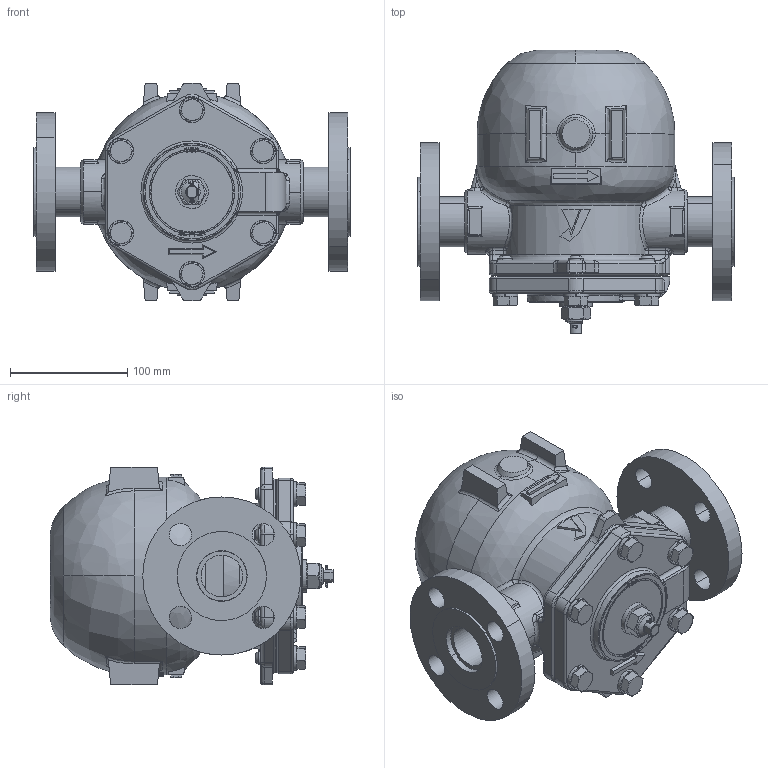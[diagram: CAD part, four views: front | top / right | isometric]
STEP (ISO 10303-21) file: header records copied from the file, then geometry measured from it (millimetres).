
FILE_DESCRIPTION( (''), '2;1');
FILE_NAME ('PC1027.12188.TSF-11SF JIS20KRF 32A_2396.stp','2025-07-31T10:52:02',(''),(''),'spGate 20.6.3 (****-****-****-****)','','');
FILE_SCHEMA (('AUTOMOTIVE_DESIGN'));
Length unit declared in the file: millimetre
Products named in the file (13): Assembly; SOP 20K 32A; CP_SUS_Q_Q''_SUS304TP 32AxSch40x260_5126; _{__32A ____; 3D_@TSF-10_@_____s__; 3D_@TSF-10_@_Z_p_i_b_g; 3D_@TSF-10_@_J___[; 3D_@TSF-11_@________; ____; _R_b_N____; CP_''_JIS B 1180 _____a_Z_p_{___g''_17168; SSLW12; ________
Assembly tree (23 placements, depth 2):
  Assembly
    SOP 20K 32A  x2
    CP_SUS_Q_Q''_SUS304TP 32AxSch40x260_5126
    _{__32A ____
    3D_@TSF-10_@_____s__
    3D_@TSF-10_@_Z_p_i_b_g
    3D_@TSF-10_@_J___[
    3D_@TSF-11_@________
    ____
    _R_b_N____
    CP_''_JIS B 1180 _____a_Z_p_{___g''_17168  x6
    SSLW12  x6
    ________
Bounding box: 270 x 242 x 186 mm (x, y, z)
Volume: 4295942.2 mm3; surface area: 381302.4 mm2
Topology: 23 solids, 23 shells, 976 faces, 3234 edges, 2317 vertices
Faces by surface type: plane 419, bspline 309, cylinder 248
Entity records: 64565 total; most frequent: CARTESIAN_POINT 26956, ORIENTED_EDGE 5116, COLOUR_RGB 3379, PRESENTATION_STYLE_ASSIGNMENT 3379, STYLED_ITEM 3379, EDGE_CURVE 2558, DRAUGHTING_PRE_DEFINED_CURVE_FONT 2558, CURVE_STYLE 2558
